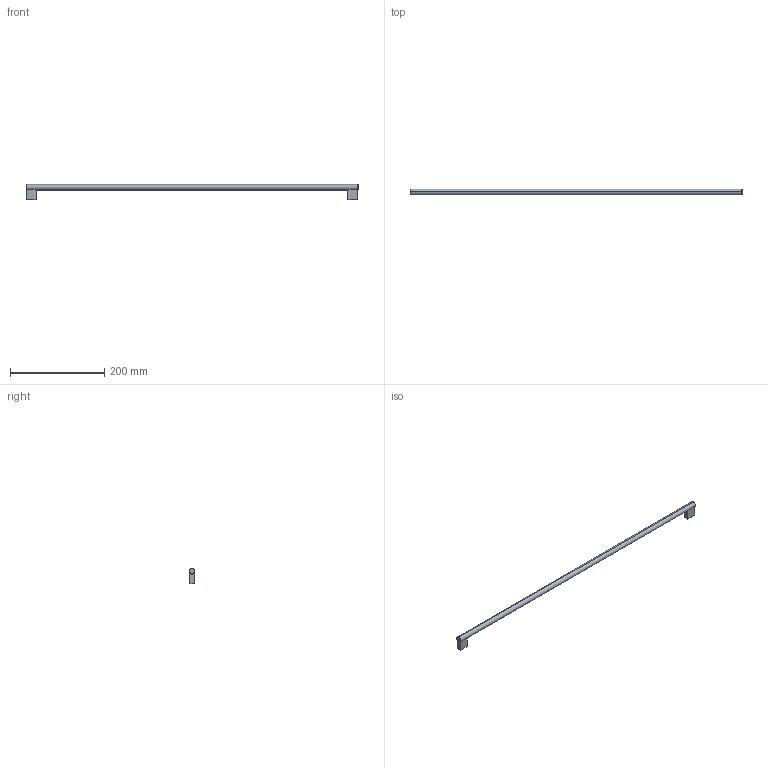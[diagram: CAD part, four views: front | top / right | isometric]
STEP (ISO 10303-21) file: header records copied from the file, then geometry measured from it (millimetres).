
FILE_DESCRIPTION( ( '' ), '1' );
FILE_NAME( 'D:/temp/hettich_stp/hettich/prodecor_handles/organic/ 115250.stp', '2013-02-26T12:49:49', ( '' ), ( '' ), ' ', ' ', ' ' );
FILE_SCHEMA( ( 'automotive_design' ) );
Length unit declared in the file: millimetre
Products named in the file (1): 1
Bounding box: 706 x 11.97 x 32 mm (x, y, z)
Volume: 87240.6 mm3; surface area: 29676.9 mm2
Topology: 1 solids, 1 shells, 24 faces, 54 edges, 34 vertices
Faces by surface type: plane 14, cylinder 6, cone 4
Entity records: 1330 total; most frequent: DIRECTION 128, STYLED_ITEM 113, PRESENTATION_STYLE_ASSIGNMENT 113, CARTESIAN_POINT 113, COLOUR_RGB 113, ORIENTED_EDGE 108, EDGE_CURVE 54, CURVE_STYLE 54
